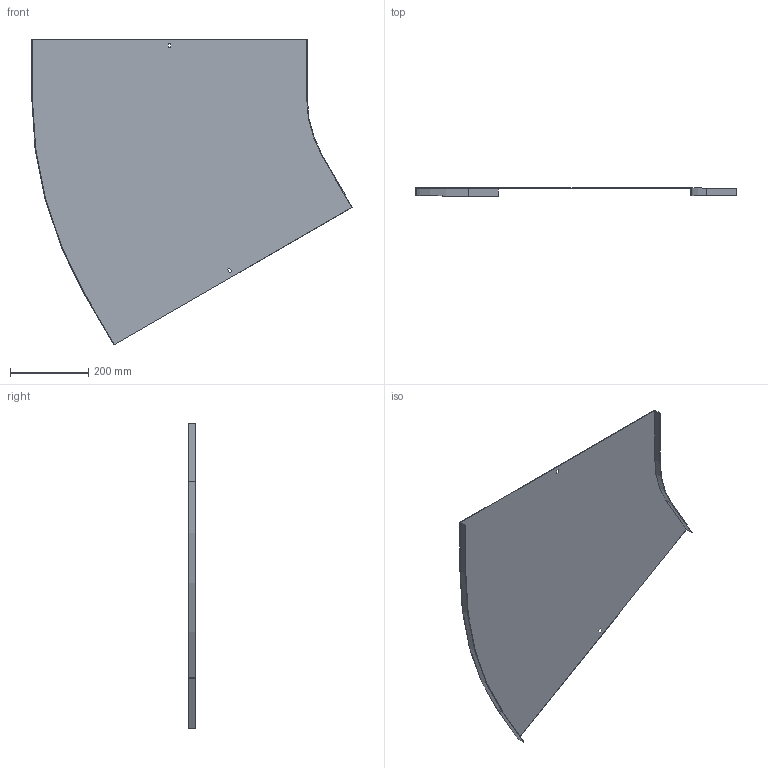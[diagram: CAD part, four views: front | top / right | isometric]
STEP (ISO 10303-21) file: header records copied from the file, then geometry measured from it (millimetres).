
FILE_DESCRIPTION (( 'STEP AP214' ), '1' );
FILE_NAME ('A2_12N3R700.step', '2025-02-21T10:49:06', ( '' ), ( '' ), 'SwSTEP 2.0', 'SolidWorks 2023', '' );
FILE_SCHEMA (( 'AUTOMOTIVE_DESIGN' ));
Length unit declared in the file: millimetre
Products named in the file (1): A2_12N3R700
Bounding box: 817.99 x 20 x 780.65 mm (x, y, z)
Volume: 710601 mm3; surface area: 951702 mm2
Topology: 1 solids, 1 shells, 26 faces, 72 edges, 48 vertices
Faces by surface type: plane 22, cylinder 4
Entity records: 855 total; most frequent: CARTESIAN_POINT 147, ORIENTED_EDGE 144, DIRECTION 134, EDGE_CURVE 72, LINE 64, VECTOR 64, VERTEX_POINT 48, AXIS2_PLACEMENT_3D 35
